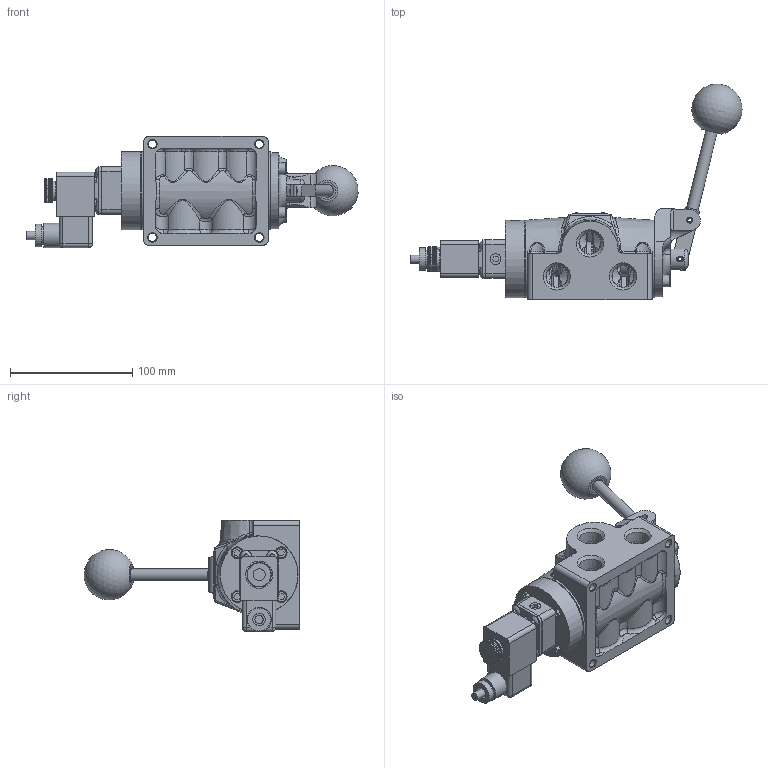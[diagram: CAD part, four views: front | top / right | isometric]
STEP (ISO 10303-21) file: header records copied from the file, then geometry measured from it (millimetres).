
FILE_DESCRIPTION(/* description */ (''),/* implementation_level */ '2;1');
FILE_NAME(/* name */ 'ESAH4TLZ.stp',/* time_stamp */ '2026-09-19T21:22:43-04:00',/* author */ ('rmckenna'),/* organization */ (''),/* preprocessor_version */ 'ST-DEVELOPER v20.2',/* originating_system */ 'Autodesk Inventor 2027',/* authorisation */ '');
FILE_SCHEMA (('AUTOMOTIVE_DESIGN { 1 0 10303 214 3 1 1 }'));
Products named in the file (1): Part42
Bounding box: 271.16 x 176.32 x 90.89 mm (x, y, z)
Volume: 621070.6 mm3; surface area: 151543.2 mm2
Topology: 3 solids, 41 shells, 2363 faces, 5837 edges, 3672 vertices
Faces by surface type: plane 925, cylinder 560, bspline 355, cone 329, torus 167, sphere 27
Full cylindrical faces by diameter (mm): 1.3 x1, 1.397 x1, 1.5 x1, 2.032 x8, 2.07 x2, 2.261 x2, 2.35 x4, 2.388 x1, 2.778 x2, 2.8 x1, 2.819 x1, 3 x4, 3.048 x5, 3.175 x2, 3.4 x1, 3.683 x6, 4.191 x2, 4.75 x2, 4.763 x2, 4.826 x4, 4.953 x1, 4.978 x8, 5.15 x4, 5.156 x4, 5.5 x1, 5.556 x1, 6.35 x8, 6.553 x1, 6.629 x4, 6.731 x1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
Entity records: 87450 total; most frequent: CARTESIAN_POINT 31247, ORIENTED_EDGE 11578, DIRECTION 10418, EDGE_CURVE 5789, AXIS2_PLACEMENT_3D 3993, VERTEX_POINT 3670, EDGE_LOOP 2609, LINE 2432
